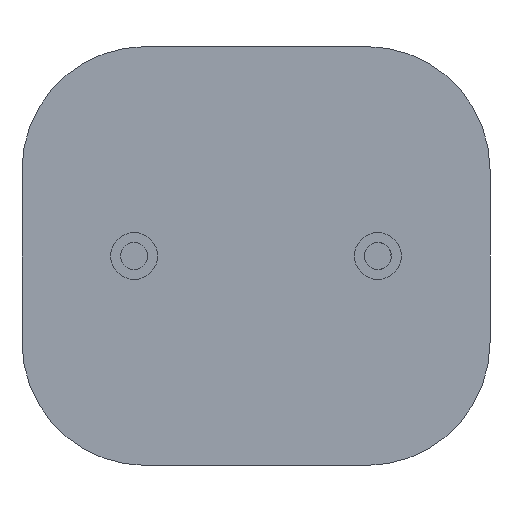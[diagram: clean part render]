
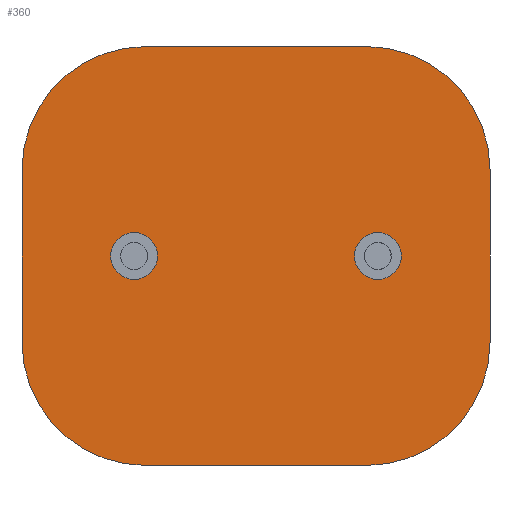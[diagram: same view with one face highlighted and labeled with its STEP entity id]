
A CAD part, front view. The second image highlights one B-rep face of the part: STEP entity #360.
In plain terms, the highlighted planar face has unit normal (0, -1, 0).
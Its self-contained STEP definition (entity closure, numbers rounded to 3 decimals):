
#6 = CARTESIAN_POINT ( 'NONE',  ( 4.95, 0., -0.95 ) ) ;
#9 = AXIS2_PLACEMENT_3D ( 'NONE', #265, #606, #180 ) ;
#12 = DIRECTION ( 'NONE',  ( 0., 1., 0. ) ) ;
#55 = CARTESIAN_POINT ( 'NONE',  ( 4.5, 0., 3.5 ) ) ;
#81 = VERTEX_POINT ( 'NONE', #90 ) ;
#83 = AXIS2_PLACEMENT_3D ( 'NONE', #55, #557, #1071 ) ;
#84 = VECTOR ( 'NONE', #478, 1000. ) ;
#90 = CARTESIAN_POINT ( 'NONE',  ( -9.5, 0., -3.5 ) ) ;
#96 = CARTESIAN_POINT ( 'NONE',  ( -4.95, 0., -0.95 ) ) ;
#112 = EDGE_CURVE ( 'NONE', #312, #742, #1087, .T. ) ;
#125 = CARTESIAN_POINT ( 'NONE',  ( 4.5, 0., -3.5 ) ) ;
#133 = CARTESIAN_POINT ( 'NONE',  ( 9.5, 0., 3.5 ) ) ;
#151 = VERTEX_POINT ( 'NONE', #96 ) ;
#161 = ORIENTED_EDGE ( 'NONE', *, *, #381, .F. ) ;
#177 = LINE ( 'NONE', #809, #84 ) ;
#180 = DIRECTION ( 'NONE',  ( 0., 0., -1. ) ) ;
#186 = DIRECTION ( 'NONE',  ( 0., -1., 0. ) ) ;
#201 = EDGE_CURVE ( 'NONE', #336, #357, #385, .T. ) ;
#220 = DIRECTION ( 'NONE',  ( 0., 0., -1. ) ) ;
#227 = EDGE_CURVE ( 'NONE', #466, #312, #344, .T. ) ;
#233 = EDGE_LOOP ( 'NONE', ( #903, #731, #161, #446, #1079, #667, #260, #472 ) ) ;
#260 = ORIENTED_EDGE ( 'NONE', *, *, #278, .F. ) ;
#264 = DIRECTION ( 'NONE',  ( 0., -1., 0. ) ) ;
#265 = CARTESIAN_POINT ( 'NONE',  ( -4.5, 0., 3.5 ) ) ;
#278 = EDGE_CURVE ( 'NONE', #396, #81, #992, .T. ) ;
#287 = VECTOR ( 'NONE', #862, 1000. ) ;
#291 = CARTESIAN_POINT ( 'NONE',  ( -4.5, 0., -3.5 ) ) ;
#296 = CARTESIAN_POINT ( 'NONE',  ( 4.5, 0., -8.5 ) ) ;
#312 = VERTEX_POINT ( 'NONE', #990 ) ;
#318 = EDGE_CURVE ( 'NONE', #454, #336, #177, .T. ) ;
#331 = DIRECTION ( 'NONE',  ( 1., 0., 0. ) ) ;
#336 = VERTEX_POINT ( 'NONE', #476 ) ;
#338 = CARTESIAN_POINT ( 'NONE',  ( 4.95, 0., 0. ) ) ;
#340 = CARTESIAN_POINT ( 'NONE',  ( -4.95, 0., 0. ) ) ;
#344 = CIRCLE ( 'NONE', #9, 5. ) ;
#357 = VERTEX_POINT ( 'NONE', #296 ) ;
#360 = ADVANCED_FACE ( 'NONE', ( #935, #464, #709 ), #738, .T. ) ;
#373 = EDGE_CURVE ( 'NONE', #357, #396, #480, .T. ) ;
#381 = EDGE_CURVE ( 'NONE', #742, #454, #736, .T. ) ;
#384 = DIRECTION ( 'NONE',  ( -1., 0., 0. ) ) ;
#385 = CIRCLE ( 'NONE', #924, 5. ) ;
#396 = VERTEX_POINT ( 'NONE', #559 ) ;
#397 = CARTESIAN_POINT ( 'NONE',  ( -9.5, 0., 3.5 ) ) ;
#421 = DIRECTION ( 'NONE',  ( 0., 0., -1. ) ) ;
#446 = ORIENTED_EDGE ( 'NONE', *, *, #112, .F. ) ;
#454 = VERTEX_POINT ( 'NONE', #133 ) ;
#464 = FACE_OUTER_BOUND ( 'NONE', #233, .T. ) ;
#466 = VERTEX_POINT ( 'NONE', #636 ) ;
#471 = CARTESIAN_POINT ( 'NONE',  ( -4.5, 0., -8.5 ) ) ;
#472 = ORIENTED_EDGE ( 'NONE', *, *, #373, .F. ) ;
#476 = CARTESIAN_POINT ( 'NONE',  ( 9.5, 0., -3.5 ) ) ;
#478 = DIRECTION ( 'NONE',  ( 0., 0., -1. ) ) ;
#480 = LINE ( 'NONE', #471, #532 ) ;
#520 = DIRECTION ( 'NONE',  ( 0., 0., -1. ) ) ;
#532 = VECTOR ( 'NONE', #384, 1000. ) ;
#557 = DIRECTION ( 'NONE',  ( 0., 1., 0. ) ) ;
#559 = CARTESIAN_POINT ( 'NONE',  ( -4.5, 0., -8.5 ) ) ;
#579 = VERTEX_POINT ( 'NONE', #6 ) ;
#591 = ORIENTED_EDGE ( 'NONE', *, *, #1086, .F. ) ;
#606 = DIRECTION ( 'NONE',  ( 0., 1., 0. ) ) ;
#636 = CARTESIAN_POINT ( 'NONE',  ( -9.5, 0., 3.5 ) ) ;
#667 = ORIENTED_EDGE ( 'NONE', *, *, #1012, .F. ) ;
#672 = CIRCLE ( 'NONE', #1033, 0.95 ) ;
#684 = DIRECTION ( 'NONE',  ( 0., 0., -1. ) ) ;
#709 = FACE_BOUND ( 'NONE', #988, .T. ) ;
#714 = ORIENTED_EDGE ( 'NONE', *, *, #1100, .F. ) ;
#726 = AXIS2_PLACEMENT_3D ( 'NONE', #338, #186, #421 ) ;
#731 = ORIENTED_EDGE ( 'NONE', *, *, #318, .F. ) ;
#733 = AXIS2_PLACEMENT_3D ( 'NONE', #910, #1074, #220 ) ;
#736 = CIRCLE ( 'NONE', #83, 5. ) ;
#738 = PLANE ( 'NONE',  #733 ) ;
#742 = VERTEX_POINT ( 'NONE', #832 ) ;
#743 = LINE ( 'NONE', #397, #287 ) ;
#752 = VECTOR ( 'NONE', #331, 1000. ) ;
#777 = EDGE_LOOP ( 'NONE', ( #714 ) ) ;
#809 = CARTESIAN_POINT ( 'NONE',  ( 9.5, 0., 3.5 ) ) ;
#832 = CARTESIAN_POINT ( 'NONE',  ( 4.5, 0., 8.5 ) ) ;
#862 = DIRECTION ( 'NONE',  ( 0., 0., 1. ) ) ;
#866 = DIRECTION ( 'NONE',  ( 0., 0., -1. ) ) ;
#903 = ORIENTED_EDGE ( 'NONE', *, *, #201, .F. ) ;
#910 = CARTESIAN_POINT ( 'NONE',  ( 4.5, 0., -3.5 ) ) ;
#924 = AXIS2_PLACEMENT_3D ( 'NONE', #125, #12, #520 ) ;
#931 = CARTESIAN_POINT ( 'NONE',  ( -4.5, 0., 8.5 ) ) ;
#935 = FACE_BOUND ( 'NONE', #777, .T. ) ;
#943 = DIRECTION ( 'NONE',  ( 0., 1., 0. ) ) ;
#988 = EDGE_LOOP ( 'NONE', ( #591 ) ) ;
#990 = CARTESIAN_POINT ( 'NONE',  ( -4.5, 0., 8.5 ) ) ;
#992 = CIRCLE ( 'NONE', #1062, 5. ) ;
#1001 = CIRCLE ( 'NONE', #726, 0.95 ) ;
#1012 = EDGE_CURVE ( 'NONE', #81, #466, #743, .T. ) ;
#1033 = AXIS2_PLACEMENT_3D ( 'NONE', #340, #264, #866 ) ;
#1062 = AXIS2_PLACEMENT_3D ( 'NONE', #291, #943, #684 ) ;
#1071 = DIRECTION ( 'NONE',  ( 0., 0., -1. ) ) ;
#1074 = DIRECTION ( 'NONE',  ( 0., -1., 0. ) ) ;
#1079 = ORIENTED_EDGE ( 'NONE', *, *, #227, .F. ) ;
#1086 = EDGE_CURVE ( 'NONE', #579, #579, #1001, .T. ) ;
#1087 = LINE ( 'NONE', #931, #752 ) ;
#1100 = EDGE_CURVE ( 'NONE', #151, #151, #672, .T. ) ;
